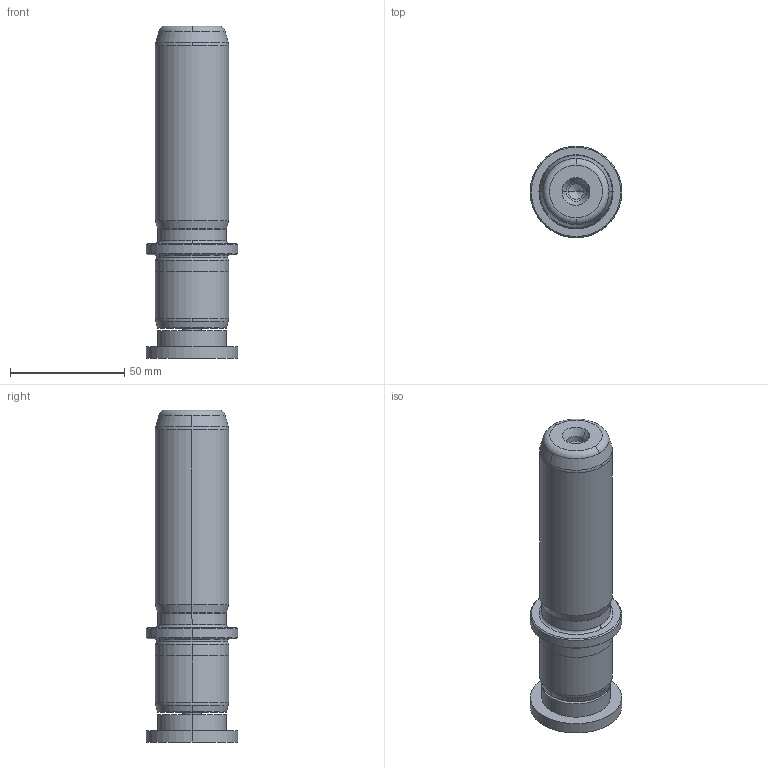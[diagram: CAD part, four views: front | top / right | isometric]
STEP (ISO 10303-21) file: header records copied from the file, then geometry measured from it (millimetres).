
FILE_DESCRIPTION((''),'2;1');
FILE_NAME('P22_032_100.stp','2009-02-03T14:00:07',(''),(''),'Mechanical Desktop 2009','Mechanical Desktop 2009',', , ');
FILE_SCHEMA(('CONFIG_CONTROL_DESIGN'));
Length unit declared in the file: millimetre
Products named in the file (2): Product; blmdl1
Assembly tree (1 placements, depth 2):
  Product
    blmdl1
Bounding box: 40 x 40 x 145 mm (x, y, z)
Volume: 115745 mm3; surface area: 21858.7 mm2
Topology: 3 solids, 3 shells, 99 faces, 237 edges, 149 vertices
Faces by surface type: cylinder 32, cone 28, plane 19, torus 10, bspline 10
Entity records: 3419 total; most frequent: CARTESIAN_POINT 923, DIRECTION 570, ORIENTED_EDGE 466, AXIS2_PLACEMENT_3D 246, EDGE_CURVE 233, CIRCLE 155, VERTEX_POINT 149, EDGE_LOOP 110
